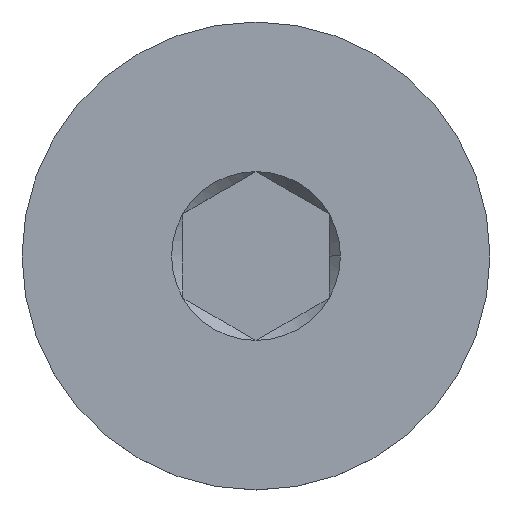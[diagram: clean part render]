
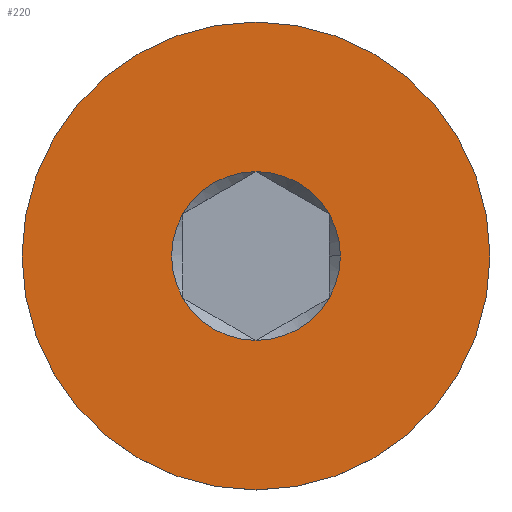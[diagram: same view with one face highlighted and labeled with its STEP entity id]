
A CAD part, top view. The second image highlights one B-rep face of the part: STEP entity #220.
In plain terms, the highlighted planar face has unit normal (0, 0, 1).
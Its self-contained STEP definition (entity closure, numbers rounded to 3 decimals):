
#61 = DIRECTION ( 'NONE',  ( 0., -1., 0. ) ) ;
#62 = DIRECTION ( 'NONE',  ( 0., 0., 1. ) ) ;
#64 = PLANE ( 'NONE',  #184 ) ;
#68 = CARTESIAN_POINT ( 'NONE',  ( 0., -2., 0. ) ) ;
#124 = EDGE_CURVE ( 'NONE', #1174, #1147, #1310, .T. ) ;
#142 = EDGE_CURVE ( 'NONE', #1209, #1192, #1325, .T. ) ;
#151 = AXIS2_PLACEMENT_3D ( 'NONE', #687, #737, #665 ) ;
#156 = AXIS2_PLACEMENT_3D ( 'NONE', #986, #985, #982 ) ;
#184 = AXIS2_PLACEMENT_3D ( 'NONE', #68, #62, #61 ) ;
#220 = ADVANCED_FACE ( 'NONE', ( #1386, #1389 ), #64, .T. ) ;
#369 = EDGE_CURVE ( 'NONE', #1192, #1209, #1488, .T. ) ;
#370 = EDGE_CURVE ( 'NONE', #1218, #1160, #1489, .T. ) ;
#371 = EDGE_CURVE ( 'NONE', #1204, #1218, #1487, .T. ) ;
#372 = EDGE_CURVE ( 'NONE', #1154, #1204, #1490, .T. ) ;
#373 = EDGE_CURVE ( 'NONE', #1143, #1154, #1491, .T. ) ;
#374 = EDGE_CURVE ( 'NONE', #1147, #1143, #1492, .T. ) ;
#375 = EDGE_CURVE ( 'NONE', #1160, #1174, #1493, .T. ) ;
#665 = DIRECTION ( 'NONE',  ( 1., 0., 0. ) ) ;
#687 = CARTESIAN_POINT ( 'NONE',  ( 0., 0., 0. ) ) ;
#737 = DIRECTION ( 'NONE',  ( 0., 0., 1. ) ) ;
#982 = DIRECTION ( 'NONE',  ( 0., -1., 0. ) ) ;
#985 = DIRECTION ( 'NONE',  ( 0., 0., 1. ) ) ;
#986 = CARTESIAN_POINT ( 'NONE',  ( 0., 0., 0. ) ) ;
#1009 = ORIENTED_EDGE ( 'NONE', *, *, #124, .F. ) ;
#1010 = ORIENTED_EDGE ( 'NONE', *, *, #374, .F. ) ;
#1012 = ORIENTED_EDGE ( 'NONE', *, *, #142, .T. ) ;
#1013 = ORIENTED_EDGE ( 'NONE', *, *, #369, .T. ) ;
#1026 = ORIENTED_EDGE ( 'NONE', *, *, #372, .F. ) ;
#1032 = ORIENTED_EDGE ( 'NONE', *, *, #373, .F. ) ;
#1068 = ORIENTED_EDGE ( 'NONE', *, *, #375, .F. ) ;
#1069 = ORIENTED_EDGE ( 'NONE', *, *, #371, .F. ) ;
#1081 = ORIENTED_EDGE ( 'NONE', *, *, #370, .F. ) ;
#1143 = VERTEX_POINT ( 'NONE', #2589 ) ;
#1147 = VERTEX_POINT ( 'NONE', #2593 ) ;
#1154 = VERTEX_POINT ( 'NONE', #2600 ) ;
#1160 = VERTEX_POINT ( 'NONE', #2606 ) ;
#1174 = VERTEX_POINT ( 'NONE', #2572 ) ;
#1192 = VERTEX_POINT ( 'NONE', #2560 ) ;
#1204 = VERTEX_POINT ( 'NONE', #2647 ) ;
#1209 = VERTEX_POINT ( 'NONE', #2652 ) ;
#1218 = VERTEX_POINT ( 'NONE', #2661 ) ;
#1249 = EDGE_LOOP ( 'NONE', ( #1012, #1013 ) ) ;
#1254 = EDGE_LOOP ( 'NONE', ( #1081, #1069, #1026, #1032, #1010, #1009, #1068 ) ) ;
#1310 = CIRCLE ( 'NONE', #151, 1.443 ) ;
#1325 = CIRCLE ( 'NONE', #156, 4. ) ;
#1386 = FACE_BOUND ( 'NONE', #1254, .T. ) ;
#1389 = FACE_OUTER_BOUND ( 'NONE', #1249, .T. ) ;
#1487 = CIRCLE ( 'NONE', #1623, 1.443 ) ;
#1488 = CIRCLE ( 'NONE', #1621, 4. ) ;
#1489 = CIRCLE ( 'NONE', #1622, 1.443 ) ;
#1490 = CIRCLE ( 'NONE', #1624, 1.443 ) ;
#1491 = CIRCLE ( 'NONE', #1625, 1.443 ) ;
#1492 = CIRCLE ( 'NONE', #1626, 1.443 ) ;
#1493 = CIRCLE ( 'NONE', #1627, 1.443 ) ;
#1621 = AXIS2_PLACEMENT_3D ( 'NONE', #2490, #2491, #2492 ) ;
#1622 = AXIS2_PLACEMENT_3D ( 'NONE', #2493, #2494, #2495 ) ;
#1623 = AXIS2_PLACEMENT_3D ( 'NONE', #2496, #2497, #2498 ) ;
#1624 = AXIS2_PLACEMENT_3D ( 'NONE', #2499, #2500, #2501 ) ;
#1625 = AXIS2_PLACEMENT_3D ( 'NONE', #2502, #2503, #2504 ) ;
#1626 = AXIS2_PLACEMENT_3D ( 'NONE', #2505, #2506, #2507 ) ;
#1627 = AXIS2_PLACEMENT_3D ( 'NONE', #2510, #2511, #2512 ) ;
#2490 = CARTESIAN_POINT ( 'NONE',  ( 0., 0., 0. ) ) ;
#2491 = DIRECTION ( 'NONE',  ( 0., 0., 1. ) ) ;
#2492 = DIRECTION ( 'NONE',  ( 0., -1., 0. ) ) ;
#2493 = CARTESIAN_POINT ( 'NONE',  ( 0., 0., 0. ) ) ;
#2494 = DIRECTION ( 'NONE',  ( 0., 0., 1. ) ) ;
#2495 = DIRECTION ( 'NONE',  ( 1., 0., 0. ) ) ;
#2496 = CARTESIAN_POINT ( 'NONE',  ( 0., 0., 0. ) ) ;
#2497 = DIRECTION ( 'NONE',  ( 0., 0., 1. ) ) ;
#2498 = DIRECTION ( 'NONE',  ( 1., 0., 0. ) ) ;
#2499 = CARTESIAN_POINT ( 'NONE',  ( 0., 0., 0. ) ) ;
#2500 = DIRECTION ( 'NONE',  ( 0., 0., 1. ) ) ;
#2501 = DIRECTION ( 'NONE',  ( 1., 0., 0. ) ) ;
#2502 = CARTESIAN_POINT ( 'NONE',  ( 0., 0., 0. ) ) ;
#2503 = DIRECTION ( 'NONE',  ( 0., 0., 1. ) ) ;
#2504 = DIRECTION ( 'NONE',  ( 1., 0., 0. ) ) ;
#2505 = CARTESIAN_POINT ( 'NONE',  ( 0., 0., 0. ) ) ;
#2506 = DIRECTION ( 'NONE',  ( 0., 0., 1. ) ) ;
#2507 = DIRECTION ( 'NONE',  ( 1., 0., 0. ) ) ;
#2510 = CARTESIAN_POINT ( 'NONE',  ( 0., 0., 0. ) ) ;
#2511 = DIRECTION ( 'NONE',  ( 0., 0., 1. ) ) ;
#2512 = DIRECTION ( 'NONE',  ( 1., 0., 0. ) ) ;
#2560 = CARTESIAN_POINT ( 'NONE',  ( 0., 4., 0. ) ) ;
#2572 = CARTESIAN_POINT ( 'NONE',  ( 1.443, 0., 0. ) ) ;
#2589 = CARTESIAN_POINT ( 'NONE',  ( 0., 1.443, 0. ) ) ;
#2593 = CARTESIAN_POINT ( 'NONE',  ( 1.25, 0.722, 0. ) ) ;
#2600 = CARTESIAN_POINT ( 'NONE',  ( -1.25, 0.722, 0. ) ) ;
#2606 = CARTESIAN_POINT ( 'NONE',  ( 1.25, -0.722, 0. ) ) ;
#2647 = CARTESIAN_POINT ( 'NONE',  ( -1.25, -0.722, 0. ) ) ;
#2652 = CARTESIAN_POINT ( 'NONE',  ( 0., -4., 0. ) ) ;
#2661 = CARTESIAN_POINT ( 'NONE',  ( 0., -1.443, 0. ) ) ;
